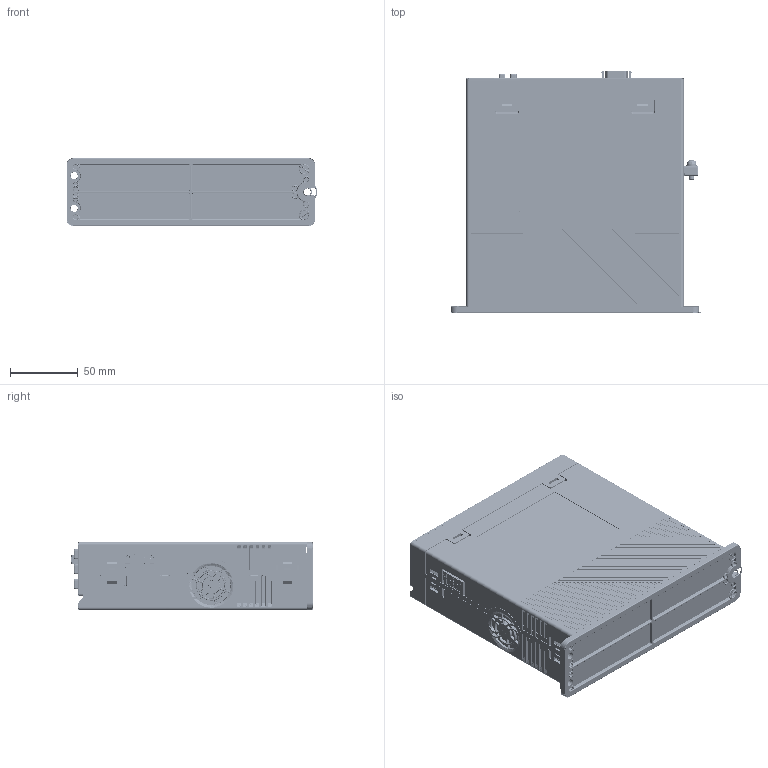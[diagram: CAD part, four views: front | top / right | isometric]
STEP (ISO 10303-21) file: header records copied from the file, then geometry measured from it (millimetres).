
FILE_DESCRIPTION((''),'2;1');
FILE_NAME('BD3E-B-0731_SW0002','2025-02-19T13:49:51',('qiaolun'),(''),'CREO PARAMETRIC BY PTC INC, 2021063','CREO PARAMETRIC BY PTC INC, 2021063','');
FILE_SCHEMA(('CONFIG_CONTROL_DESIGN'));
Products named in the file (1): BD3E-B-0731_SW0002
Bounding box: 184.53 x 178.2 x 50 mm (x, y, z)
Surface area: 186290.6 mm2 (no closed solid volume)
Topology: 0 solids, 0 shells, 10029 faces, 59728 edges, 59645 vertices
Faces by surface type: plane 7423, cylinder 2126, cone 197, bspline 136, torus 72, extrusion 51, sphere 20, revolution 4
Entity records: 793211 total; most frequent: CARTESIAN_POINT 229274, DIRECTION 101173, TRIMMED_CURVE 76945, VECTOR 72499, LINE 72448, DEFINITIONAL_REPRESENTATION 59582, PCURVE 59582, COMPOSITE_CURVE_SEGMENT 59582
